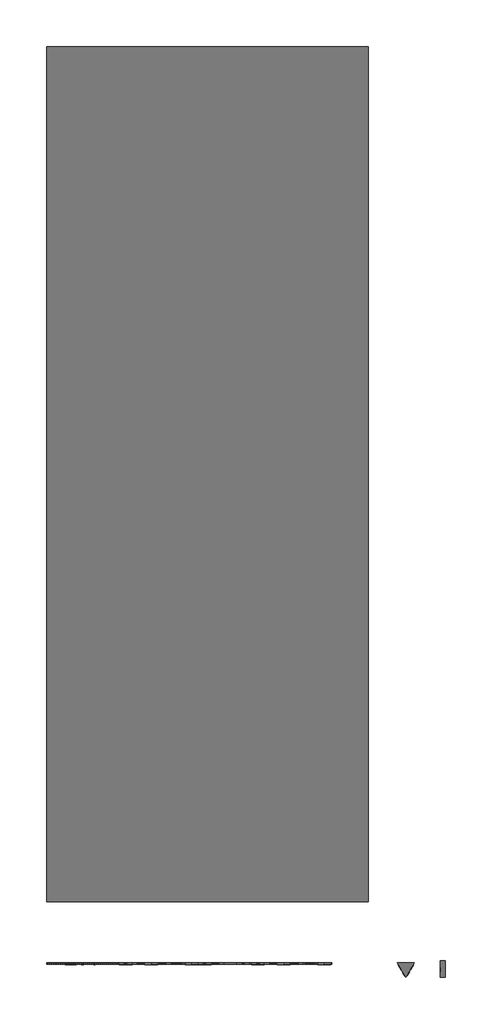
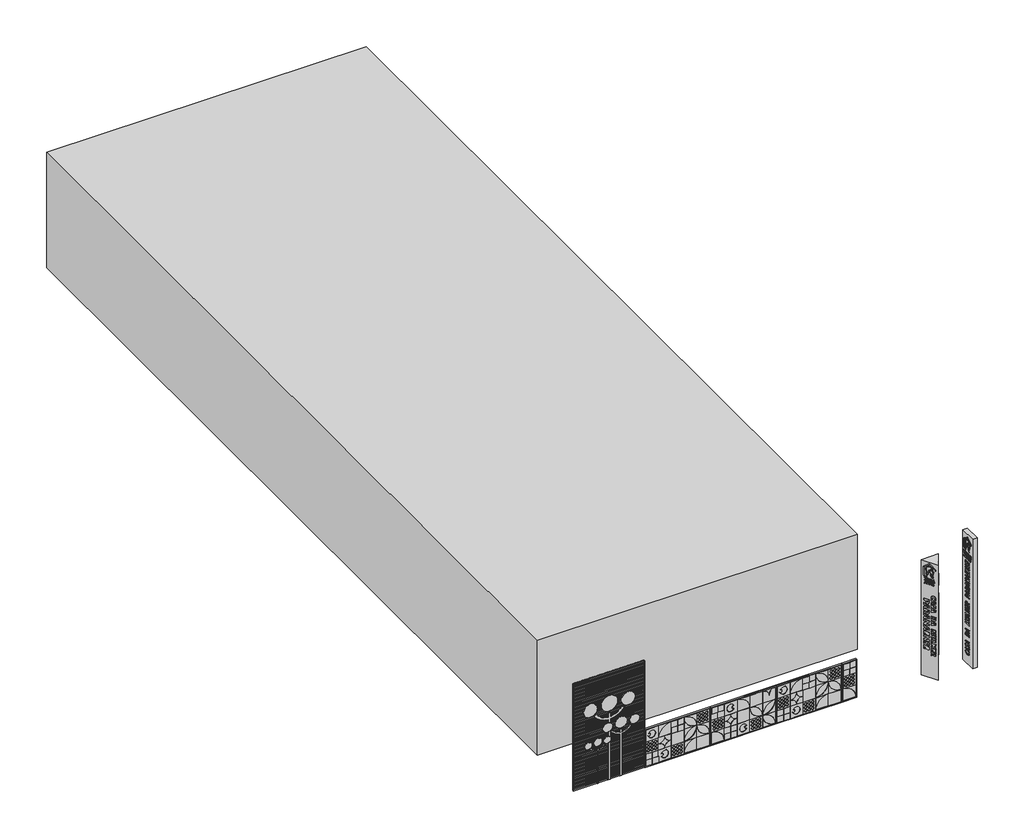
# One storey, incomplete: 5 proxies.
"""IFC4 building model written with IfcOpenShell, lengths in millimetres."""

from ifc_helpers import new_model, si_unit, origin, place, context, project, spatial, transform, mapped, element, save
from components import generic_models_1c8efe62, generic_models_2f17fe86, generic_models_a8d53121, generic_models_fbd47416, generic_models_16d8a0b0, generic_models_b1f84769, generic_models_19a9d5c8, generic_models_84155143, generic_models_c4e1d2f5, generic_models_2c9e3bdf

model = new_model("IFC4")

# Units and contexts
model_context = context("Model", 3, world=origin())
ifc_project = project(units=[si_unit("LENGTHUNIT", "METRE", prefix="MILLI")], contexts=[model_context])

# Site, building, storey
site = spatial("IfcSite", under=ifc_project)
building = spatial("IfcBuilding", under=site)
storey = spatial("IfcBuildingStorey", under=building, Name="N.A 0.00", Elevation=0.0)

# Proxies
placement = place(None, origin())
generic_models_shape = generic_models_1c8efe62(model_context)
generic_models_2_shape = generic_models_2f17fe86(model_context)
element("IfcBuildingElementProxy", 1, Name="Modelos genéricos - (400)TOTEM - (400)TOTEM", ObjectType="Modelos genéricos - (400)TOTEM - (400)TOTEM", at=placement, inside=storey, context=model_context, shape_type="MappedRepresentation", body=[
    mapped(generic_models_shape, transform((11961.9660982, -2526.3139721, -37.8534751), x_axis=(1.0, 0.0, 0.0), y_axis=(0.0, 1.0, 0.0), z_axis=(0.0, 0.0, 1.0))),
    mapped(generic_models_2_shape, transform((11961.9660982, -2526.3139721, -37.8534751), x_axis=(1.0, 0.0, 0.0), y_axis=(0.0, 1.0, 0.0), z_axis=(0.0, 0.0, 1.0))),
])
generic_models_3_shape = generic_models_a8d53121(model_context)
element("IfcBuildingElementProxy", 2, Name="Modelos genéricos - Modelos genéricos 4 - Modelos genéricos 4", ObjectType="Modelos genéricos - Modelos genéricos 4 - Modelos genéricos 4", at=placement, inside=storey, context=model_context, shape_type="MappedRepresentation", body=[
    mapped(generic_models_3_shape, transform((0.0, -50.0, 0.0), x_axis=(1.0, 0.0, 0.0), y_axis=(0.0, 1.0, 0.0), z_axis=(0.0, 0.0, 1.0))),
])
generic_models_4_shape = generic_models_fbd47416(model_context)
element("IfcBuildingElementProxy", 3, Name="Modelos genéricos - (reduzido) PAINEL CMP (ARAUCÁRIA) - (reduzido) PAINEL CMP (ARAUCÁRIA)", ObjectType="Modelos genéricos - (reduzido) PAINEL CMP (ARAUCÁRIA) - (reduzido) PAINEL CMP (ARAUCÁRIA)", at=placement, inside=storey, context=model_context, shape_type="MappedRepresentation", body=[
    mapped(generic_models_4_shape, transform((3119.0598597, -2070.0, 0.0), x_axis=(1.0, 0.0, 0.0), y_axis=(0.0, 1.0, 0.0), z_axis=(0.0, 0.0, 1.0))),
])
generic_models_5_shape = generic_models_16d8a0b0(model_context)
generic_models_6_shape = generic_models_b1f84769(model_context)
generic_models_7_shape = generic_models_19a9d5c8(model_context)
generic_models_8_shape = generic_models_84155143(model_context)
element("IfcBuildingElementProxy", 4, Name="Modelos genéricos - (reduzido)PAINEL VAZADO - 90CM - (reduzido)PAINEL VAZADO - 90CM", ObjectType="Modelos genéricos - (reduzido)PAINEL VAZADO - 90CM - (reduzido)PAINEL VAZADO - 90CM", at=placement, inside=storey, context=model_context, shape_type="MappedRepresentation", body=[
    mapped(generic_models_5_shape, transform((2359.0598597, -2050.0, 0.0), x_axis=(1.0, 0.0, 0.0), y_axis=(0.0, 1.0, 0.0), z_axis=(0.0, 0.0, 1.0))),
    mapped(generic_models_6_shape, transform((2359.0598597, -2050.0, 0.0), x_axis=(1.0, 0.0, 0.0), y_axis=(0.0, 1.0, 0.0), z_axis=(0.0, 0.0, 1.0))),
    mapped(generic_models_7_shape, transform((2359.0598597, -2050.0, 0.0), x_axis=(1.0, 0.0, 0.0), y_axis=(0.0, 1.0, 0.0), z_axis=(0.0, 0.0, 1.0))),
    mapped(generic_models_8_shape, transform((2359.0598597, -2050.0, 0.0), x_axis=(1.0, 0.0, 0.0), y_axis=(0.0, 1.0, 0.0), z_axis=(0.0, 0.0, 1.0))),
])
generic_models_9_shape = generic_models_c4e1d2f5(model_context)
generic_models_10_shape = generic_models_2c9e3bdf(model_context)
element("IfcBuildingElementProxy", 5, Name="Modelos genéricos - TOTEM RETANGULAR - TOTEM RETANGULAR", ObjectType="Modelos genéricos - TOTEM RETANGULAR - TOTEM RETANGULAR", at=placement, inside=storey, context=model_context, shape_type="MappedRepresentation", body=[
    mapped(generic_models_9_shape, transform((13164.753307, -2526.3139721, -37.9465249), x_axis=(1.0, 0.0, 0.0), y_axis=(0.0, 1.0, 0.0), z_axis=(0.0, 0.0, 1.0))),
    mapped(generic_models_10_shape, transform((13164.753307, -2526.3139721, -37.9465249), x_axis=(1.0, 0.0, 0.0), y_axis=(0.0, 1.0, 0.0), z_axis=(0.0, 0.0, 1.0))),
])

save(model, "model.ifc")
